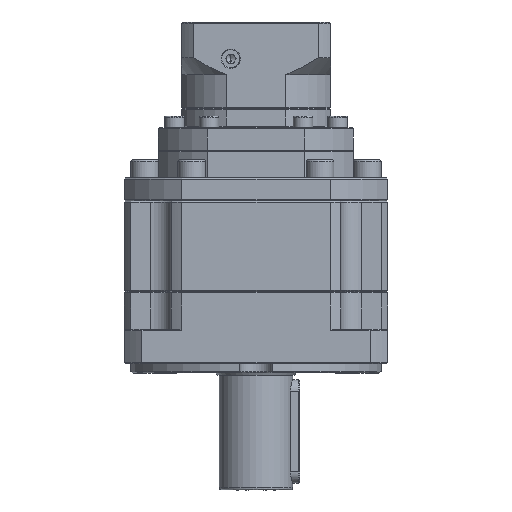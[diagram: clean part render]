
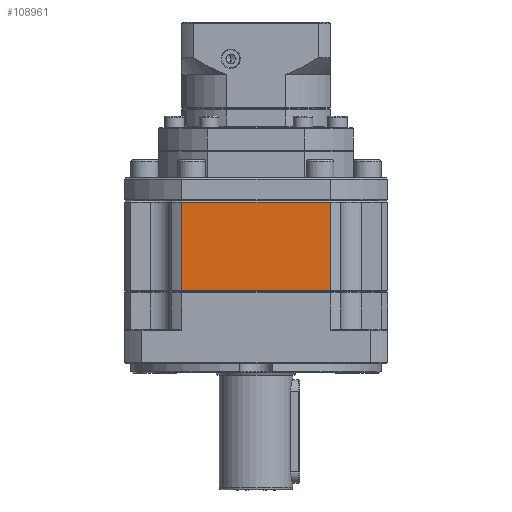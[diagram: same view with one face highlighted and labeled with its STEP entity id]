
A CAD part, left-side view. The second image highlights one B-rep face of the part: STEP entity #108961.
In plain terms, the highlighted planar face has unit normal (-1, 0, 0).
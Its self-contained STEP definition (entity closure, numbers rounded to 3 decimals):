
#4514 = VECTOR ( 'NONE', #103240, 1000. ) ;
#8302 = EDGE_LOOP ( 'NONE', ( #23305, #79158, #32102, #52847 ) ) ;
#11235 = VERTEX_POINT ( 'NONE', #14625 ) ;
#12339 = VECTOR ( 'NONE', #12636, 1000. ) ;
#12636 = DIRECTION ( 'NONE',  ( 0., 0., 1. ) ) ;
#14625 = CARTESIAN_POINT ( 'NONE',  ( -109.299, 67.791, -79.976 ) ) ;
#18449 = CARTESIAN_POINT ( 'NONE',  ( -109.299, -22.109, -118.476 ) ) ;
#23305 = ORIENTED_EDGE ( 'NONE', *, *, #116567, .F. ) ;
#27443 = CARTESIAN_POINT ( 'NONE',  ( -109.299, 2.991, -79.476 ) ) ;
#32102 = ORIENTED_EDGE ( 'NONE', *, *, #81088, .F. ) ;
#34411 = DIRECTION ( 'NONE',  ( 1., 0., 0. ) ) ;
#34813 = VERTEX_POINT ( 'NONE', #95059 ) ;
#35700 = EDGE_CURVE ( 'NONE', #34813, #61191, #59592, .T. ) ;
#36593 = DIRECTION ( 'NONE',  ( 0., 0., -1. ) ) ;
#40742 = LINE ( 'NONE', #117445, #12339 ) ;
#48443 = VECTOR ( 'NONE', #104466, 1000. ) ;
#50145 = CARTESIAN_POINT ( 'NONE',  ( -109.299, 67.791, -118.476 ) ) ;
#52847 = ORIENTED_EDGE ( 'NONE', *, *, #63419, .F. ) ;
#55590 = CARTESIAN_POINT ( 'NONE',  ( -109.299, 35.391, -79.976 ) ) ;
#56220 = AXIS2_PLACEMENT_3D ( 'NONE', #91560, #34411, #101202 ) ;
#56618 = VECTOR ( 'NONE', #36593, 1000. ) ;
#59592 = LINE ( 'NONE', #27443, #56618 ) ;
#61191 = VERTEX_POINT ( 'NONE', #82898 ) ;
#63419 = EDGE_CURVE ( 'NONE', #89346, #11235, #40742, .T. ) ;
#79158 = ORIENTED_EDGE ( 'NONE', *, *, #35700, .F. ) ;
#80718 = LINE ( 'NONE', #55590, #4514 ) ;
#80721 = FACE_OUTER_BOUND ( 'NONE', #8302, .T. ) ;
#81088 = EDGE_CURVE ( 'NONE', #11235, #34813, #80718, .T. ) ;
#82898 = CARTESIAN_POINT ( 'NONE',  ( -109.299, 2.991, -118.476 ) ) ;
#89346 = VERTEX_POINT ( 'NONE', #50145 ) ;
#91560 = CARTESIAN_POINT ( 'NONE',  ( -109.299, -22.109, -79.476 ) ) ;
#95059 = CARTESIAN_POINT ( 'NONE',  ( -109.299, 2.991, -79.976 ) ) ;
#99281 = LINE ( 'NONE', #18449, #48443 ) ;
#101202 = DIRECTION ( 'NONE',  ( 0., 1., 0. ) ) ;
#103240 = DIRECTION ( 'NONE',  ( 0., -1., 0. ) ) ;
#104466 = DIRECTION ( 'NONE',  ( 0., 1., 0. ) ) ;
#108961 = ADVANCED_FACE ( 'NONE', ( #80721 ), #110399, .F. ) ;
#110399 = PLANE ( 'NONE',  #56220 ) ;
#116567 = EDGE_CURVE ( 'NONE', #61191, #89346, #99281, .T. ) ;
#117445 = CARTESIAN_POINT ( 'NONE',  ( -109.299, 67.791, -79.476 ) ) ;
